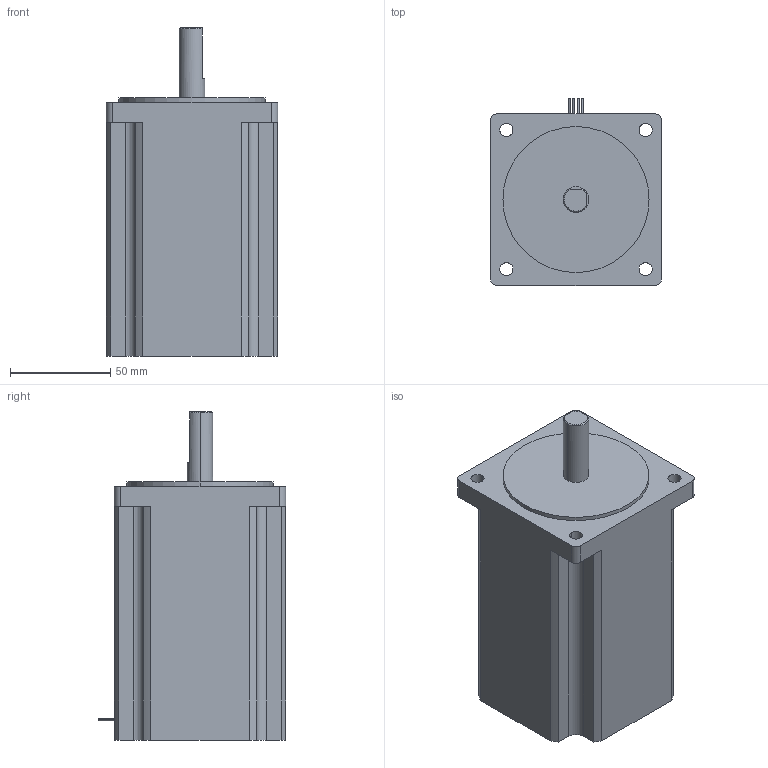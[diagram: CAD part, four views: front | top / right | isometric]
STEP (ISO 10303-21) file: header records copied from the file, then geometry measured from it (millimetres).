
FILE_DESCRIPTION((''),'2;1');
FILE_NAME('C:\Documents and Settings\rbadgerow\Desktop\webmodelmain\web step 3d\8718l\8718l s.stp','2005-05-24T07:31:18',('rbadgerow'),(''),'Autodesk Inventor 9','Autodesk Inventor 9','');
FILE_SCHEMA(('AUTOMOTIVE_DESIGN { 1 0 10303 214 1 1 1 1 }'));
Length unit declared in the file: inch
Products named in the file (1): 8718l s
Bounding box: 85.6 x 93.6 x 164.08 mm (x, y, z)
Volume: 842184.5 mm3; surface area: 58029.1 mm2
Topology: 1 solids, 1 shells, 70 faces, 184 edges, 123 vertices
Faces by surface type: cylinder 38, plane 29, cone 3
Entity records: 2238 total; most frequent: DIRECTION 407, CARTESIAN_POINT 386, ORIENTED_EDGE 368, EDGE_CURVE 184, AXIS2_PLACEMENT_3D 156, VERTEX_POINT 123, VECTOR 95, LINE 95
